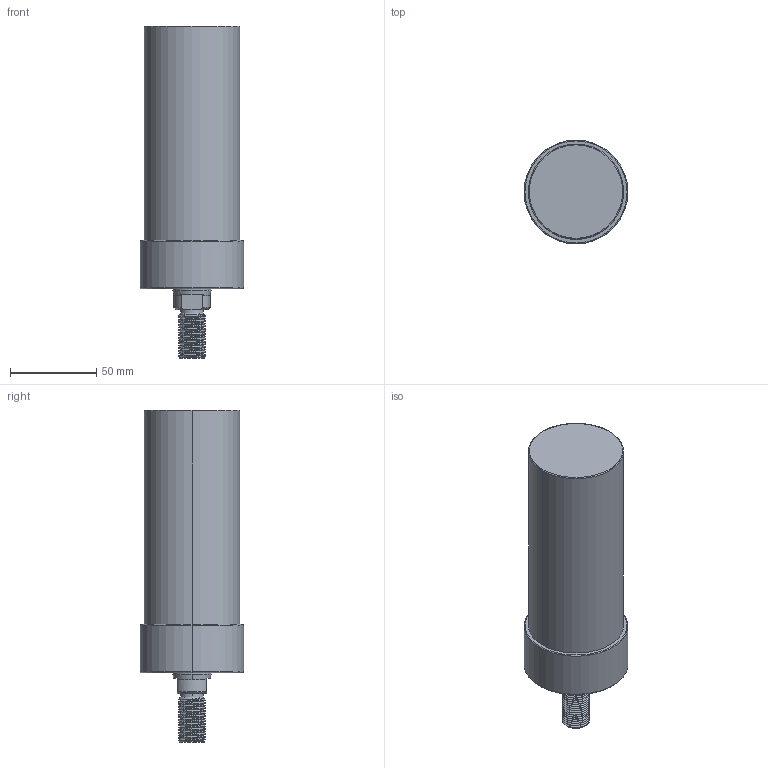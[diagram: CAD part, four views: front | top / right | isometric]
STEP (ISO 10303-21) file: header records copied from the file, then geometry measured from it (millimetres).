
FILE_DESCRIPTION (( 'STEP AP203' ), '1' );
FILE_NAME ('CLLU-055GT-095.STEP', '2020-01-16T01:50:48', ( '' ), ( '' ), 'SwSTEP 2.0', 'SolidWorks 2015', '' );
FILE_SCHEMA (( 'CONFIG_CONTROL_DESIGN' ));
Length unit declared in the file: millimetre
Products named in the file (1): CLLU-055GT-095
Bounding box: 60 x 60 x 192 mm (x, y, z)
Volume: 381035.5 mm3; surface area: 36410.1 mm2
Topology: 1 solids, 1 shells, 102 faces, 254 edges, 155 vertices
Faces by surface type: cylinder 56, cone 26, plane 12, torus 6, bspline 2
Entity records: 4909 total; most frequent: CARTESIAN_POINT 2618, ORIENTED_EDGE 492, DIRECTION 445, EDGE_CURVE 246, AXIS2_PLACEMENT_3D 178, VERTEX_POINT 155, EDGE_LOOP 111, FACE_OUTER_BOUND 102
